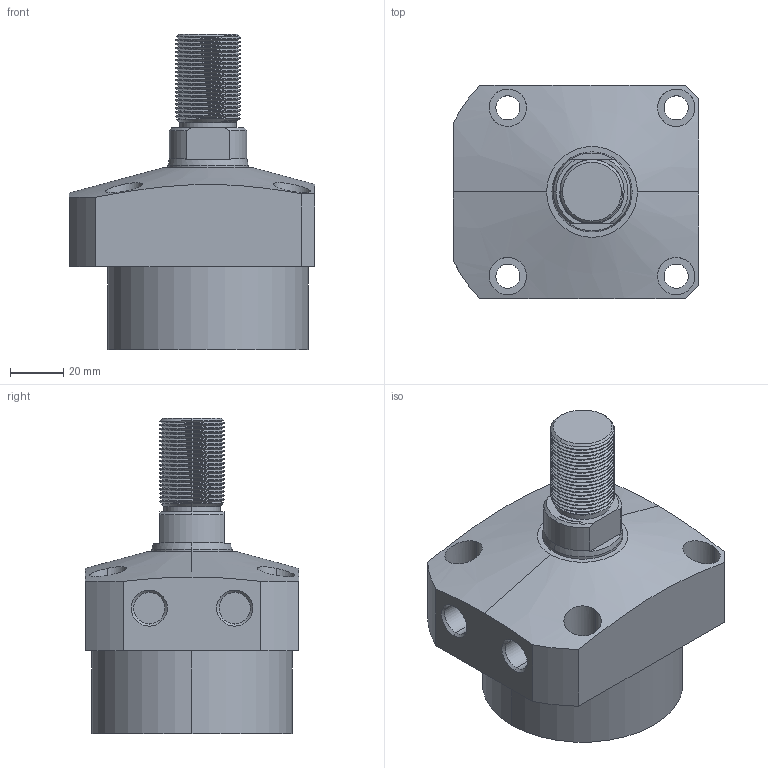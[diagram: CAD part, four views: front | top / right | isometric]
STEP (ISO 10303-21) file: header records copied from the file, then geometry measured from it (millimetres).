
FILE_DESCRIPTION (( 'STEP AP203' ), '1' );
FILE_NAME ('CLL-075CT-(1-14).STEP', '2020-01-08T11:46:50', ( '' ), ( '' ), 'SwSTEP 2.0', 'SolidWorks 2015', '' );
FILE_SCHEMA (( 'CONFIG_CONTROL_DESIGN' ));
Length unit declared in the file: millimetre
Products named in the file (1): CLL-075CT-(1-14)
Bounding box: 92 x 80 x 118 mm (x, y, z)
Volume: 380155.8 mm3; surface area: 41651 mm2
Topology: 1 solids, 1 shells, 122 faces, 312 edges, 204 vertices
Faces by surface type: cylinder 77, plane 25, cone 16, bspline 4
Entity records: 7964 total; most frequent: CARTESIAN_POINT 5168, ORIENTED_EDGE 624, DIRECTION 511, EDGE_CURVE 312, VERTEX_POINT 204, AXIS2_PLACEMENT_3D 199, EDGE_LOOP 142, FACE_OUTER_BOUND 122
